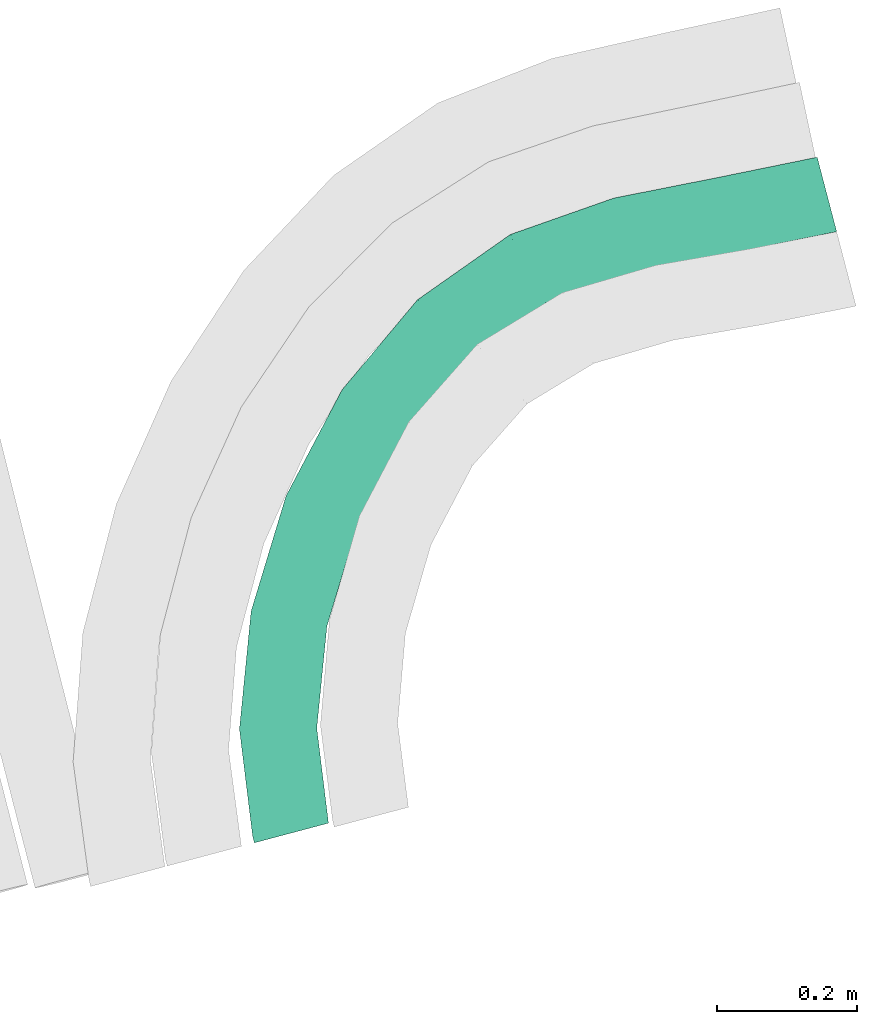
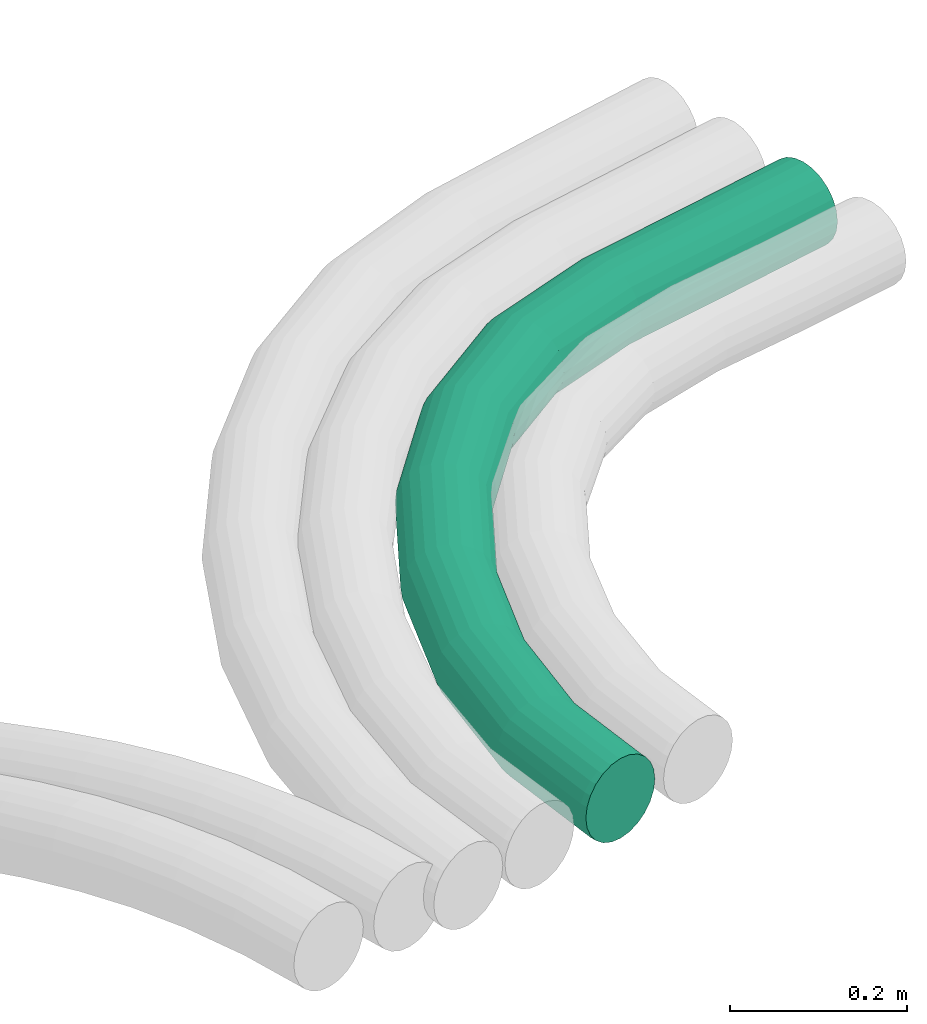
# One storey, part 4 of 6: 1 flow segment.
"""IFC2X3 building model written with IfcOpenShell, lengths in centimetres."""

from ifc_helpers import new_model, entity, si_unit, converted_unit, derived_unit, direction, frame, origin, place, context, subcontext, project, spatial, faceted_brep, type_object, element, save


model = new_model("IFC2X3")

# Units and contexts
model_context = context("Model", 3, precision=0.001, world=origin(), true_north=direction((6.12303176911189e-17, 1.0)))
body_context = subcontext(model_context, "Body", "Model", "MODEL_VIEW")
ifc_project = project(units=[si_unit("LENGTHUNIT", "METRE", prefix="CENTI"), si_unit("AREAUNIT", "SQUARE_METRE"), si_unit("VOLUMEUNIT", "CUBIC_METRE"), converted_unit("PLANEANGLEUNIT", "DEGREE", entity("IfcRatioMeasure", 0.0174532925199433), si_unit("PLANEANGLEUNIT", "RADIAN"), dimensions=[0, 0, 0, 0, 0, 0, 0]), si_unit("MASSUNIT", "GRAM", prefix="KILO"), derived_unit("MASSDENSITYUNIT", [(si_unit("MASSUNIT", "GRAM", prefix="KILO"), 1), (si_unit("LENGTHUNIT", "METRE"), -3)]), si_unit("TIMEUNIT", "SECOND"), si_unit("FREQUENCYUNIT", "HERTZ"), si_unit("THERMODYNAMICTEMPERATUREUNIT", "DEGREE_CELSIUS"), derived_unit("THERMALTRANSMITTANCEUNIT", [(si_unit("MASSUNIT", "GRAM", prefix="KILO"), 1), (si_unit("THERMODYNAMICTEMPERATUREUNIT", "KELVIN"), -1), (si_unit("TIMEUNIT", "SECOND"), -3)]), derived_unit("VOLUMETRICFLOWRATEUNIT", [(si_unit("LENGTHUNIT", "METRE"), 3), (si_unit("TIMEUNIT", "SECOND"), -1)]), si_unit("ELECTRICCURRENTUNIT", "AMPERE"), si_unit("ELECTRICVOLTAGEUNIT", "VOLT"), si_unit("POWERUNIT", "WATT"), si_unit("FORCEUNIT", "NEWTON"), si_unit("ILLUMINANCEUNIT", "LUX"), si_unit("LUMINOUSFLUXUNIT", "LUMEN"), si_unit("LUMINOUSINTENSITYUNIT", "CANDELA"), derived_unit("USERDEFINED", [(si_unit("MASSUNIT", "GRAM", prefix="KILO"), -1), (si_unit("LENGTHUNIT", "METRE"), -2), (si_unit("TIMEUNIT", "SECOND"), 3), (si_unit("LUMINOUSFLUXUNIT", "LUMEN"), 1)]), derived_unit("LINEARVELOCITYUNIT", [(si_unit("LENGTHUNIT", "METRE"), 1), (si_unit("TIMEUNIT", "SECOND"), -1)]), si_unit("PRESSUREUNIT", "PASCAL"), derived_unit("USERDEFINED", [(si_unit("LENGTHUNIT", "METRE"), -2), (si_unit("MASSUNIT", "GRAM", prefix="KILO"), 1), (si_unit("TIMEUNIT", "SECOND"), -2)])], contexts=[model_context])

# Site, building, storey
site_placement = place(None, origin())
site = spatial("IfcSite", under=ifc_project, at=site_placement, Name="Default", CompositionType="ELEMENT")
building_placement = place(site_placement, origin())
building = spatial("IfcBuilding", under=site, at=building_placement, Name="CAGE 03", CompositionType="ELEMENT")
storey_placement = place(building_placement, frame((0.0, 0.0, -23.0)))
storey = spatial("IfcBuildingStorey", under=building, at=storey_placement, Name="+3.77", CompositionType="ELEMENT", Elevation=-23.0000000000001)

# Flow segment
duct_segment_type = type_object("IfcDuctSegmentType", Name="Gaine flexible circulaire:Flex - Round", PredefinedType="FLEXIBLESEGMENT")
flow_segment_placement = place(storey_placement, frame((11603.0321357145, 3545.42576934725, -79.1595272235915)))
element("IfcFlowSegment", 1, at=flow_segment_placement, inside=storey, type_object=duct_segment_type, Name="Gaine flexible circulaire:Flex - Round", ObjectType="Gaine flexible circulaire:Flex - Round", context=body_context, shape_type="Brep", body=[
    faceted_brep([(3.85367718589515, 0.573686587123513, 9.54861452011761), (3.00900529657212, 0.348971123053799, 8.4095272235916), (2.47802234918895, 0.207709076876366, 7.08303197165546), (2.29691395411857, 0.15952722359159, 5.6595272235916), (2.47802234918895, 0.207709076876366, 4.23602247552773), (3.00900529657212, 0.348971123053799, 2.9095272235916), (3.85367718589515, 0.573686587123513, 1.77043992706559), (4.95447502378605, 0.866541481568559, 0.896387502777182), (6.23638125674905, 1.20757822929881, 0.346935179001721), (7.61203609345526, 1.57355573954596, 0.159527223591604), (8.98769093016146, 1.93953324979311, 0.346935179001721), (10.2695971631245, 2.28056999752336, 0.896387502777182), (11.3703950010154, 2.57342489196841, 1.77043992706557), (12.2150668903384, 2.79814035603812, 2.90952722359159), (12.7460498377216, 2.93940240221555, 4.23602247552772), (12.9271582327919, 2.98758425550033, 5.65952722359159), (12.7460498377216, 2.93940240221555, 7.08303197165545), (12.2150668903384, 2.79814035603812, 8.40952722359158), (11.3703950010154, 2.57342489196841, 9.5486145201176), (10.2695971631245, 2.28056999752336, 10.422666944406), (8.98769093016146, 1.93953324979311, 10.9721192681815), (7.61203609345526, 1.57355573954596, 11.1595272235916), (6.23638125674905, 1.20757822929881, 10.9721192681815), (4.95447502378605, 0.866541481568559, 10.422666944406), (2.04354303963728, 1.11191067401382, 5.6595272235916), (2.22797278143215, 1.14760808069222, 4.23602247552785), (2.76869342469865, 1.2522675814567, 2.90952722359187), (3.62885575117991, 1.41875680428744, 1.77043992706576), (4.74984111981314, 1.63572978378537, 0.896387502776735), (6.0552562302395, 1.8884001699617, 0.34693517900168), (7.45613919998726, 2.15954889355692, 0.159527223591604), (8.85702216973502, 2.43069761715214, 0.34693517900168), (10.1624372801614, 2.68336800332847, 0.896387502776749), (11.2834226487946, 2.9003409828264, 1.77043992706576), (12.6843056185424, 3.17148970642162, 4.23602247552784), (12.8687353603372, 3.20718711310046, 5.65952722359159), (12.1435849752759, 3.06683020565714, 2.90952722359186), (12.1435849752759, 3.06683020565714, 8.40952722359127), (11.2834226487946, 2.9003409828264, 9.54861452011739), (12.6843056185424, 3.17148970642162, 7.08303197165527), (8.85702216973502, 2.43069761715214, 10.9721192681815), (7.45613919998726, 2.15954889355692, 11.1595272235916), (10.1624372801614, 2.68336800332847, 10.4226669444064), (6.0552562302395, 1.8884001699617, 10.9721192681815), (4.74984111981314, 1.63572978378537, 10.4226669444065), (3.62885575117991, 1.41875680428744, 9.54861452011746), (2.76869342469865, 1.2522675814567, 8.40952722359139), (2.22797278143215, 1.14760808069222, 7.08303197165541), (82.8620088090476, 98.0771191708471, 7.08303197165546), (83.0008442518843, 97.5454965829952, 8.4095272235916), (83.2216995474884, 96.6998071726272, 9.54861452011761), (83.5095237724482, 95.5976832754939, 10.422666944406), (83.8447021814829, 94.3142328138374, 10.9721192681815), (84.2043929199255, 92.936920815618, 11.1595272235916), (84.5640836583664, 91.5596088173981, 10.9721192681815), (84.8992620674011, 90.2761583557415, 10.422666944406), (85.1870862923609, 89.1740344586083, 9.5486145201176), (85.4079415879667, 88.3283450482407, 8.40952722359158), (85.5467770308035, 87.7967224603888, 7.08303197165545), (85.5941312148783, 87.615395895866, 5.65952722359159), (85.5467770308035, 87.7967224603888, 4.23602247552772), (85.4079415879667, 88.3283450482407, 2.90952722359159), (85.1870862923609, 89.1740344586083, 1.77043992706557), (84.8992620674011, 90.2761583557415, 0.896387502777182), (84.5640836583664, 91.5596088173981, 0.346935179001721), (84.2043929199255, 92.936920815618, 0.159527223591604), (83.8447021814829, 94.3142328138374, 0.346935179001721), (83.5095237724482, 95.5976832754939, 0.896387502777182), (83.2216995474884, 96.6998071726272, 1.77043992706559), (83.0008442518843, 97.5454965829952, 2.9095272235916), (82.8620088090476, 98.0771191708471, 4.23602247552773), (82.8146546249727, 98.2584457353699, 5.6595272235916), (0.159527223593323, 16.4314599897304, 5.6595272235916), (0.348072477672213, 16.433692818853, 4.2360224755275), (0.900859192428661, 16.4402391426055, 2.90952722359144), (1.78021586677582, 16.4506528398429, 1.77043992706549), (2.92621579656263, 16.4642242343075, 0.89638750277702), (4.26076098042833, 16.4800284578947, 0.346935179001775), (5.69290436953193, 16.4969884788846, 0.159527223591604), (7.12504775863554, 16.5139484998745, 0.346935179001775), (8.45959294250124, 16.5297527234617, 0.89638750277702), (9.60559287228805, 16.5433241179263, 1.77043992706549), (10.4849495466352, 16.5537378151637, 2.90952722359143), (11.0377362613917, 16.5602841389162, 4.23602247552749), (11.2262815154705, 16.5625169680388, 5.65952722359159), (11.0377362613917, 16.5602841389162, 7.08303197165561), (10.4849495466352, 16.5537378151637, 8.40952722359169), (9.60559287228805, 16.5433241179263, 9.54861452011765), (7.12504775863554, 16.5139484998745, 10.9721192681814), (5.69290436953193, 16.4969884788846, 11.1595272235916), (8.45959294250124, 16.5297527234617, 10.4226669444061), (4.26076098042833, 16.4800284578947, 10.9721192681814), (2.92621579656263, 16.4642242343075, 10.4226669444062), (1.78021586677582, 16.4506528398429, 9.54861452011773), (0.900859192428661, 16.4402391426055, 8.4095272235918), (0.348072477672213, 16.433692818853, 7.08303197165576), (1.82994813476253, 33.3036142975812, 5.6595272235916), (2.01463261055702, 33.2668511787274, 4.23602247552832), (2.556100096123, 33.1590671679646, 2.90952722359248), (3.41745047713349, 32.987607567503, 1.77043992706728), (4.53998414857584, 32.7641570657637, 0.896387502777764), (5.84720229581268, 32.5039434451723, 0.346935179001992), (7.25002016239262, 32.2246998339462, 0.159527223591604), (8.65283802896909, 31.9454562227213, 0.346935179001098), (9.96005617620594, 31.6852426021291, 0.896387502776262), (11.08258984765, 31.4617921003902, 1.77043992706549), (11.9439402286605, 31.2903324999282, 2.90952722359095), (12.4854077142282, 31.1825484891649, 4.23602247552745), (12.6700921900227, 31.1457853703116, 5.65952722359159), (12.4854077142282, 31.1825484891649, 7.08303197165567), (11.9439402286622, 31.2903324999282, 8.40952722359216), (11.08258984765, 31.4617921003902, 9.54861452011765), (8.65283802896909, 31.9454562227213, 10.9721192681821), (7.25002016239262, 32.2246998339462, 11.1595272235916), (9.96005617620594, 31.6852426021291, 10.4226669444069), (5.84720229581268, 32.5039434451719, 10.9721192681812), (4.53998414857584, 32.7641570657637, 10.4226669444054), (3.41745047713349, 32.987607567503, 9.54861452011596), (2.556100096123, 33.1590671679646, 8.40952722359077), (2.01463261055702, 33.2668511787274, 7.08303197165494), (6.83322114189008, 49.8106252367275, 5.6595272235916), (7.00735925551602, 49.7390671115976, 4.23602247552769), (7.51790637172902, 49.5292693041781, 2.90952722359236), (8.3300695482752, 49.1955291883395, 1.77043992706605), (9.38850120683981, 48.7605906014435, 0.89638750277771), (10.6210709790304, 48.2540938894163, 0.346935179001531), (11.9437812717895, 47.7105559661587, 0.159527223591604), (13.2664915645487, 47.1670180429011, 0.346935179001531), (14.4990613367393, 46.6605213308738, 0.896387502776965), (15.5574929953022, 46.2255827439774, 1.77043992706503), (16.3696561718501, 45.8918426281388, 2.9095272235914), (16.8802032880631, 45.6820448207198, 4.23602247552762), (17.054341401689, 45.6104866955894, 5.65952722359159), (16.8802032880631, 45.6820448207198, 7.08303197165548), (16.3696561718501, 45.8918426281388, 8.40952722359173), (15.5574929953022, 46.2255827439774, 9.54861452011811), (13.2664915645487, 47.1670180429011, 10.9721192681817), (11.9437812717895, 47.7105559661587, 11.1595272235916), (14.4990613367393, 46.6605213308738, 10.4226669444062), (10.6210709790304, 48.2540938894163, 10.9721192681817), (9.38850120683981, 48.7605906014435, 10.4226669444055), (8.3300695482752, 49.1955291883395, 9.54861452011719), (7.51790637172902, 49.5292693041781, 8.40952722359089), (7.00735925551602, 49.7390671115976, 7.08303197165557), (14.8436023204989, 64.9932843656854, 5.6595272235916), (15.0000362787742, 64.8881702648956, 4.23602247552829), (15.4586774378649, 64.5799913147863, 2.90952722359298), (16.1882701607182, 64.0897494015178, 1.77043992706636), (17.1390939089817, 63.4508537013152, 0.896387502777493), (18.2463516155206, 62.7068439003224, 0.346935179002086), (19.4345854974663, 61.9084230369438, 0.159527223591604), (20.6228193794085, 61.1100021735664, 0.346935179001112), (21.7300770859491, 60.3659923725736, 0.896387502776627), (22.6809008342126, 59.7270966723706, 1.77043992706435), (23.4104935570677, 59.2368547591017, 2.9095272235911), (23.8691347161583, 58.928675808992, 4.2360224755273), (24.0255686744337, 58.8235617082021, 5.65952722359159), (23.8691347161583, 58.928675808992, 7.0830319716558), (23.4104935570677, 59.2368547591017, 8.40952722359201), (22.6809008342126, 59.7270966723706, 9.5486145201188), (20.6228193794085, 61.1100021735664, 10.9721192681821), (19.4345854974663, 61.9084230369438, 11.1595272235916), (21.7300770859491, 60.3659923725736, 10.4226669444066), (18.2463516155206, 62.7068439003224, 10.9721192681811), (17.1390939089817, 63.4508537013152, 10.4226669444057), (16.1882701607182, 64.0897494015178, 9.54861452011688), (15.4586774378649, 64.5799913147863, 8.40952722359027), (15.0000362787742, 64.8881702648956, 7.08303197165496), (25.6306372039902, 77.857324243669, 5.6595272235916), (25.758490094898, 77.7181258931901, 4.23602247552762), (26.1333358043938, 77.3100169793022, 2.90952722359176), (26.7296292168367, 76.660809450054, 1.77043992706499), (27.5067339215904, 75.8147457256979, 0.896387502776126), (28.4116915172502, 74.8294836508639, 0.346935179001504), (29.3828306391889, 73.772167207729, 0.159527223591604), (30.3539697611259, 72.714850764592, 0.346935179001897), (31.2589273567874, 71.7295886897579, 0.896387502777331), (32.036032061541, 70.8835249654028, 1.77043992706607), (32.632325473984, 70.2343174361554, 2.90952722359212), (33.007171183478, 69.8262085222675, 4.23602247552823), (33.1350240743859, 69.6870101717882, 5.65952722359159), (33.007171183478, 69.8262085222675, 7.08303197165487), (32.632325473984, 70.2343174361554, 8.40952722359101), (32.036032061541, 70.8835249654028, 9.54861452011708), (30.3539697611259, 72.714850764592, 10.9721192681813), (29.3828306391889, 73.772167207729, 11.1595272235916), (31.2589273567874, 71.7295886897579, 10.4226669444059), (28.4116915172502, 74.8294836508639, 10.9721192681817), (27.5067339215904, 75.8147457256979, 10.4226669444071), (26.7296292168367, 76.660809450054, 9.54861452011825), (26.1333358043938, 77.3100169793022, 8.4095272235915), (25.758490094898, 77.7181258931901, 7.08303197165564), (38.9065696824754, 87.1932876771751, 5.6595272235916), (38.9931891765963, 87.0250929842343, 4.23602247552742), (39.2471446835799, 86.5319710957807, 2.90952722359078), (39.6511295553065, 85.7475274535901, 1.77043992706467), (40.1776128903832, 84.7252205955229, 0.896387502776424), (40.7907157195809, 83.5347190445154, 0.34693517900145), (41.4486560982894, 82.2571535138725, 0.159527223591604), (42.1065964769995, 80.9795879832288, 0.346935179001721), (42.7196993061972, 79.7890864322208, 0.896387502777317), (43.246182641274, 78.7667795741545, 1.77043992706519), (43.6501675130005, 77.9823359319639, 2.90952722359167), (43.9041230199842, 77.4892140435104, 4.23602247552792), (43.9907425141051, 77.32101935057, 5.65952722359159), (43.9041230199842, 77.4892140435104, 7.08303197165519), (43.6501675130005, 77.9823359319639, 8.40952722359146), (43.246182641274, 78.7667795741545, 9.54861452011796), (42.1065964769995, 80.9795879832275, 10.9721192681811), (41.4486560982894, 82.2571535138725, 11.1595272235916), (42.7196993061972, 79.7890864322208, 10.4226669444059), (40.7907157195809, 83.5347190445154, 10.9721192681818), (40.1776128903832, 84.7252205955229, 10.4226669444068), (39.6511295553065, 85.7475274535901, 9.54861452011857), (39.2471446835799, 86.5319710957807, 8.40952722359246), (38.9931891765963, 87.0250929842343, 7.08303197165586), (53.7067222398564, 92.399636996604, 5.6595272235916), (53.7562697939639, 92.2184012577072, 4.23602247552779), (53.9015358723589, 91.6870449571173, 2.90952722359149), (54.1326208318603, 90.8417791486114, 1.7704399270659), (54.4337766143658, 89.7402073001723, 0.896387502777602), (54.7844799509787, 88.4573997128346, 0.346935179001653), (55.1608309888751, 87.0807776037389, 0.159527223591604), (55.5371820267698, 85.7041554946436, 0.34693517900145), (55.8878853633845, 84.4213479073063, 0.896387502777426), (56.1890411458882, 83.3197760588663, 1.77043992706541), (56.4201261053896, 82.4745102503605, 2.9095272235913), (56.5653921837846, 81.9431539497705, 4.23602247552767), (56.6149397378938, 81.7619182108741, 5.65952722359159), (56.5653921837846, 81.9431539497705, 7.08303197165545), (56.4201261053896, 82.4745102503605, 8.40952722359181), (56.1890411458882, 83.3197760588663, 9.54861452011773), (55.5371820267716, 85.7041554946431, 10.9721192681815), (55.1608309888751, 87.0807776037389, 11.1595272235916), (55.8878853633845, 84.4213479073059, 10.4226669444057), (54.7844799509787, 88.4573997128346, 10.9721192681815), (54.4337766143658, 89.7402073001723, 10.4226669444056), (54.1326208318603, 90.8417791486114, 9.54861452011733), (53.9015358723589, 91.6870449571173, 8.40952722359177), (53.7562697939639, 92.2184012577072, 7.08303197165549), (68.656053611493, 95.1686217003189, 4.23602247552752), (68.7643712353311, 94.6299494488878, 2.90952722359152), (68.6191084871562, 95.3523527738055, 5.6595272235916), (68.9366796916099, 93.7730456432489, 1.77043992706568), (69.4227383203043, 91.355837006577, 0.346935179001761), (69.7033644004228, 89.9602609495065, 0.159527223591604), (69.1612364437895, 92.6563068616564, 0.896387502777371), (69.9839904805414, 88.5646848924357, 0.346935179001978), (70.2454923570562, 87.2642150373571, 0.896387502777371), (70.4700491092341, 86.1474762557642, 1.77043992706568), (70.6423575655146, 85.2905724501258, 2.90952722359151), (70.7506751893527, 84.7519001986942, 4.23602247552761), (70.7876203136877, 84.5681691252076, 5.65952722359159), (70.7506751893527, 84.7519001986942, 7.0830319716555), (70.6423575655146, 85.2905724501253, 8.40952722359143), (70.4700491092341, 86.1474762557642, 9.54861452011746), (70.2454923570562, 87.2642150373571, 10.4226669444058), (69.9839904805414, 88.5646848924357, 10.9721192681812), (69.7033644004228, 89.9602609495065, 11.1595272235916), (69.4227383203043, 91.355837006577, 10.9721192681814), (69.1612364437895, 92.6563068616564, 10.4226669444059), (68.9366796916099, 93.7730456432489, 9.54861452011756), (68.7643712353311, 94.6299494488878, 8.40952722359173), (68.656053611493, 95.1686217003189, 7.08303197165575), (82.7191119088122, 98.0398010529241, 4.23602247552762), (82.8435762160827, 97.5044253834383, 2.90952722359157), (82.6766594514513, 98.2224077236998, 5.6595272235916), (83.0415703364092, 96.6527656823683, 1.77043992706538), (83.6000847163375, 94.2503499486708, 0.346935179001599), (83.9225431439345, 92.8633145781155, 0.159527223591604), (83.2996012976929, 95.5428611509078, 0.896387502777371), (84.2450015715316, 91.4762792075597, 0.346935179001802), (84.5454849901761, 90.1837680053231, 0.896387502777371), (84.8035159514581, 89.0738634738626, 1.77043992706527), (85.0015100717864, 88.2222037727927, 2.90952722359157), (85.1259743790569, 87.6868281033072, 4.23602247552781), (85.1684268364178, 87.5042214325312, 5.65952722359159), (85.1259743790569, 87.6868281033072, 7.08303197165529), (85.0015100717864, 88.2222037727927, 8.40952722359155), (84.8035159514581, 89.0738634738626, 9.54861452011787), (84.5454849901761, 90.1837680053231, 10.4226669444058), (84.2450015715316, 91.4762792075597, 10.9721192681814), (83.9225431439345, 92.8633145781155, 11.1595272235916), (83.6000847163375, 94.2503499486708, 10.9721192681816), (83.2996012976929, 95.5428611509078, 10.4226669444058), (83.0415703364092, 96.6527656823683, 9.54861452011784), (82.8435762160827, 97.5044253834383, 8.40952722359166), (82.7191119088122, 98.0398010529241, 7.08303197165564)], [[[0, 1, 2, 3, 4, 5, 6, 7, 8, 9, 10, 11, 12, 13, 14, 15, 16, 17, 18, 19, 20, 21, 22, 23]], [[3, 24, 25, 4]], [[4, 25, 26, 5]], [[5, 26, 27, 6]], [[7, 28, 29, 8]], [[8, 29, 30, 9]], [[6, 27, 28, 7]], [[31, 32, 11, 10]], [[30, 31, 10, 9]], [[11, 32, 33, 12]], [[34, 35, 15, 14]], [[36, 34, 14, 13]], [[12, 33, 36, 13]], [[17, 37, 38, 18]], [[39, 37, 17, 16]], [[15, 35, 39, 16]], [[40, 41, 21, 20]], [[42, 40, 20, 19]], [[38, 42, 19, 18]], [[23, 22, 43, 44]], [[0, 23, 44, 45]], [[21, 41, 43, 22]], [[2, 1, 46, 47]], [[3, 2, 47, 24]], [[45, 46, 1, 0]], [[48, 49, 50, 51, 52, 53, 54, 55, 56, 57, 58, 59, 60, 61, 62, 63, 64, 65, 66, 67, 68, 69, 70, 71]], [[24, 72, 73, 25]], [[25, 73, 74, 26]], [[26, 74, 75, 27]], [[27, 75, 76, 28]], [[28, 76, 77, 29]], [[78, 30, 29, 77]], [[79, 80, 32, 31]], [[78, 79, 31, 30]], [[81, 33, 32, 80]], [[82, 83, 34, 36]], [[82, 36, 33, 81]], [[84, 35, 34, 83]], [[85, 86, 37, 39]], [[84, 85, 39, 35]], [[38, 37, 86, 87]], [[88, 89, 41, 40]], [[90, 88, 40, 42]], [[87, 90, 42, 38]], [[43, 41, 89, 91]], [[44, 43, 91, 92]], [[45, 44, 92, 93]], [[47, 46, 94, 95]], [[24, 47, 95, 72]], [[93, 94, 46, 45]], [[73, 72, 96, 97]], [[74, 73, 97, 98]], [[98, 99, 75, 74]], [[76, 75, 99, 100]], [[77, 76, 100, 101]], [[78, 77, 101, 102]], [[103, 104, 80, 79]], [[102, 103, 79, 78]], [[81, 80, 104, 105]], [[106, 107, 83, 82]], [[105, 106, 82, 81]], [[84, 83, 107, 108]], [[109, 110, 86, 85]], [[108, 109, 85, 84]], [[111, 87, 86, 110]], [[112, 113, 89, 88]], [[114, 112, 88, 90]], [[114, 90, 87, 111]], [[89, 113, 115, 91]], [[91, 115, 116, 92]], [[117, 93, 92, 116]], [[94, 118, 119, 95]], [[95, 119, 96, 72]], [[118, 94, 93, 117]], [[97, 96, 120, 121]], [[98, 97, 121, 122]], [[122, 123, 99, 98]], [[100, 99, 123, 124]], [[101, 100, 124, 125]], [[102, 101, 125, 126]], [[127, 128, 104, 103]], [[126, 127, 103, 102]], [[105, 104, 128, 129]], [[130, 131, 107, 106]], [[129, 130, 106, 105]], [[108, 107, 131, 132]], [[133, 134, 110, 109]], [[132, 133, 109, 108]], [[135, 111, 110, 134]], [[136, 137, 113, 112]], [[138, 136, 112, 114]], [[138, 114, 111, 135]], [[113, 137, 139, 115]], [[115, 139, 140, 116]], [[141, 117, 116, 140]], [[118, 142, 143, 119]], [[119, 143, 120, 96]], [[142, 118, 117, 141]], [[120, 144, 145, 121]], [[121, 145, 146, 122]], [[122, 146, 147, 123]], [[123, 147, 148, 124]], [[124, 148, 149, 125]], [[150, 126, 125, 149]], [[151, 152, 128, 127]], [[150, 151, 127, 126]], [[153, 129, 128, 152]], [[154, 155, 131, 130]], [[154, 130, 129, 153]], [[156, 132, 131, 155]], [[157, 158, 134, 133]], [[156, 157, 133, 132]], [[135, 134, 158, 159]], [[160, 161, 137, 136]], [[162, 160, 136, 138]], [[159, 162, 138, 135]], [[139, 137, 161, 163]], [[140, 139, 163, 164]], [[141, 140, 164, 165]], [[143, 142, 166, 167]], [[120, 143, 167, 144]], [[165, 166, 142, 141]], [[144, 168, 169, 145]], [[145, 169, 170, 146]], [[146, 170, 171, 147]], [[147, 171, 172, 148]], [[148, 172, 173, 149]], [[174, 150, 149, 173]], [[175, 176, 152, 151]], [[174, 175, 151, 150]], [[177, 153, 152, 176]], [[178, 179, 155, 154]], [[178, 154, 153, 177]], [[180, 156, 155, 179]], [[181, 182, 158, 157]], [[180, 181, 157, 156]], [[159, 158, 182, 183]], [[184, 185, 161, 160]], [[186, 184, 160, 162]], [[183, 186, 162, 159]], [[163, 161, 185, 187]], [[164, 163, 187, 188]], [[165, 164, 188, 189]], [[167, 166, 190, 191]], [[144, 167, 191, 168]], [[189, 190, 166, 165]], [[168, 192, 193, 169]], [[169, 193, 194, 170]], [[170, 194, 195, 171]], [[171, 195, 196, 172]], [[172, 196, 197, 173]], [[198, 174, 173, 197]], [[199, 200, 176, 175]], [[198, 199, 175, 174]], [[201, 177, 176, 200]], [[202, 203, 179, 178]], [[202, 178, 177, 201]], [[204, 180, 179, 203]], [[205, 206, 182, 181]], [[204, 205, 181, 180]], [[183, 182, 206, 207]], [[208, 209, 185, 184]], [[210, 208, 184, 186]], [[207, 210, 186, 183]], [[187, 185, 209, 211]], [[188, 187, 211, 212]], [[189, 188, 212, 213]], [[191, 190, 214, 215]], [[168, 191, 215, 192]], [[213, 214, 190, 189]], [[193, 192, 216, 217]], [[194, 193, 217, 218]], [[218, 219, 195, 194]], [[196, 195, 219, 220]], [[197, 196, 220, 221]], [[198, 197, 221, 222]], [[223, 224, 200, 199]], [[222, 223, 199, 198]], [[201, 200, 224, 225]], [[226, 227, 203, 202]], [[225, 226, 202, 201]], [[204, 203, 227, 228]], [[229, 230, 206, 205]], [[228, 229, 205, 204]], [[231, 207, 206, 230]], [[232, 233, 209, 208]], [[234, 232, 208, 210]], [[234, 210, 207, 231]], [[209, 233, 235, 211]], [[211, 235, 236, 212]], [[237, 213, 212, 236]], [[214, 238, 239, 215]], [[215, 239, 216, 192]], [[238, 214, 213, 237]], [[240, 241, 218, 217]], [[242, 240, 217, 216]], [[241, 243, 219, 218]], [[244, 245, 222, 221]], [[246, 244, 221, 220]], [[243, 246, 220, 219]], [[223, 222, 245, 247]], [[224, 223, 247, 248]], [[225, 224, 248, 249]], [[227, 226, 250, 251]], [[228, 227, 251, 252]], [[249, 250, 226, 225]], [[228, 252, 253, 229]], [[229, 253, 254, 230]], [[255, 231, 230, 254]], [[231, 255, 256, 234]], [[234, 256, 257, 232]], [[258, 233, 232, 257]], [[259, 260, 236, 235]], [[258, 259, 235, 233]], [[261, 237, 236, 260]], [[262, 263, 239, 238]], [[262, 238, 237, 261]], [[242, 216, 239, 263]], [[264, 265, 241, 240]], [[266, 264, 240, 242]], [[243, 241, 265, 267]], [[268, 269, 245, 244]], [[270, 268, 244, 246]], [[267, 270, 246, 243]], [[247, 245, 269, 271]], [[248, 247, 271, 272]], [[249, 248, 272, 273]], [[251, 250, 274, 275]], [[252, 251, 275, 276]], [[273, 274, 250, 249]], [[252, 276, 277, 253]], [[253, 277, 278, 254]], [[254, 278, 279, 255]], [[255, 279, 280, 256]], [[256, 280, 281, 257]], [[282, 258, 257, 281]], [[283, 284, 260, 259]], [[282, 283, 259, 258]], [[285, 261, 260, 284]], [[286, 287, 263, 262]], [[286, 262, 261, 285]], [[266, 242, 263, 287]], [[266, 71, 70, 264]], [[264, 70, 69, 265]], [[265, 69, 68, 267]], [[270, 67, 66, 268]], [[268, 66, 65, 269]], [[270, 267, 68, 67]], [[269, 65, 64, 271]], [[271, 64, 63, 272]], [[272, 63, 62, 273]], [[274, 61, 60, 275]], [[275, 60, 59, 276]], [[273, 62, 61, 274]], [[277, 276, 59, 58]], [[278, 277, 58, 57]], [[279, 278, 57, 56]], [[281, 280, 55, 54]], [[282, 281, 54, 53]], [[56, 55, 280, 279]], [[283, 282, 53, 52]], [[284, 283, 52, 51]], [[285, 284, 51, 50]], [[287, 286, 49, 48]], [[266, 287, 48, 71]], [[285, 50, 49, 286]]]),
])

save(model, "model.ifc")
